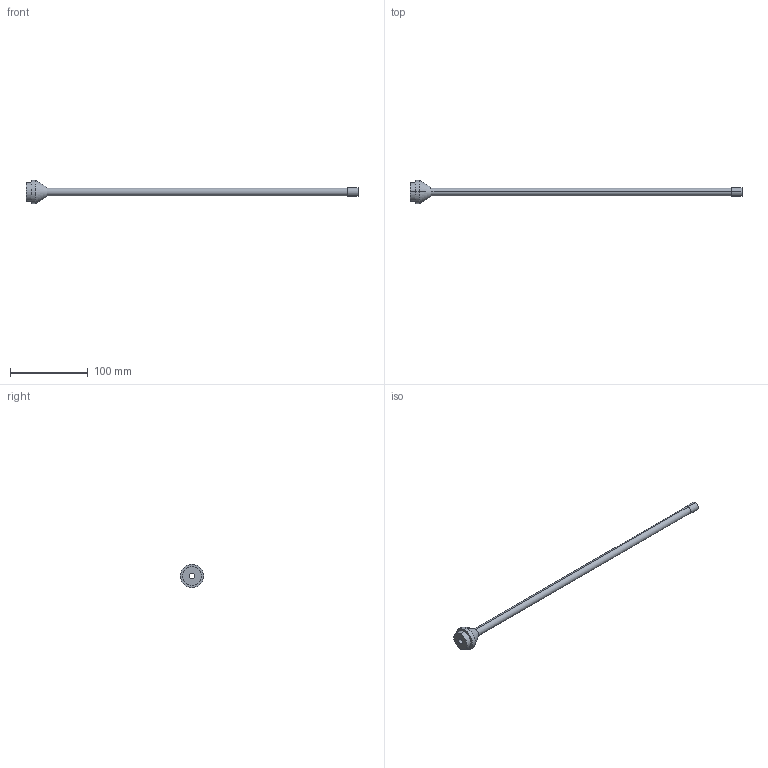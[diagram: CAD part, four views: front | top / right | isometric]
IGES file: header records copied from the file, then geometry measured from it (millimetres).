
Start section: SolidWorks IGES FILE using analytic representation for surfaces
Global section: file name: \\intra-srv04\開発データ\CAD_Data\CAD委員会\3D電子ｶﾀﾛｸﾞ\製品カタログ（新）\0_IGES\ER-AD40.IGS,41HSolidWorks 2004; native system: by SolidWorks Corporation; preprocessor: Version 5.3; author: mf1158; date: 050905.110436; units: millimetre
Bounding box: 427 x 30 x 30 mm (x, y, z)
Volume: 27412 mm3; surface area: 24926.5 mm2
Topology: 1 solids, 1 shells, 17 faces, 34 edges, 22 vertices
Faces by surface type: revolution 12, plane 5
